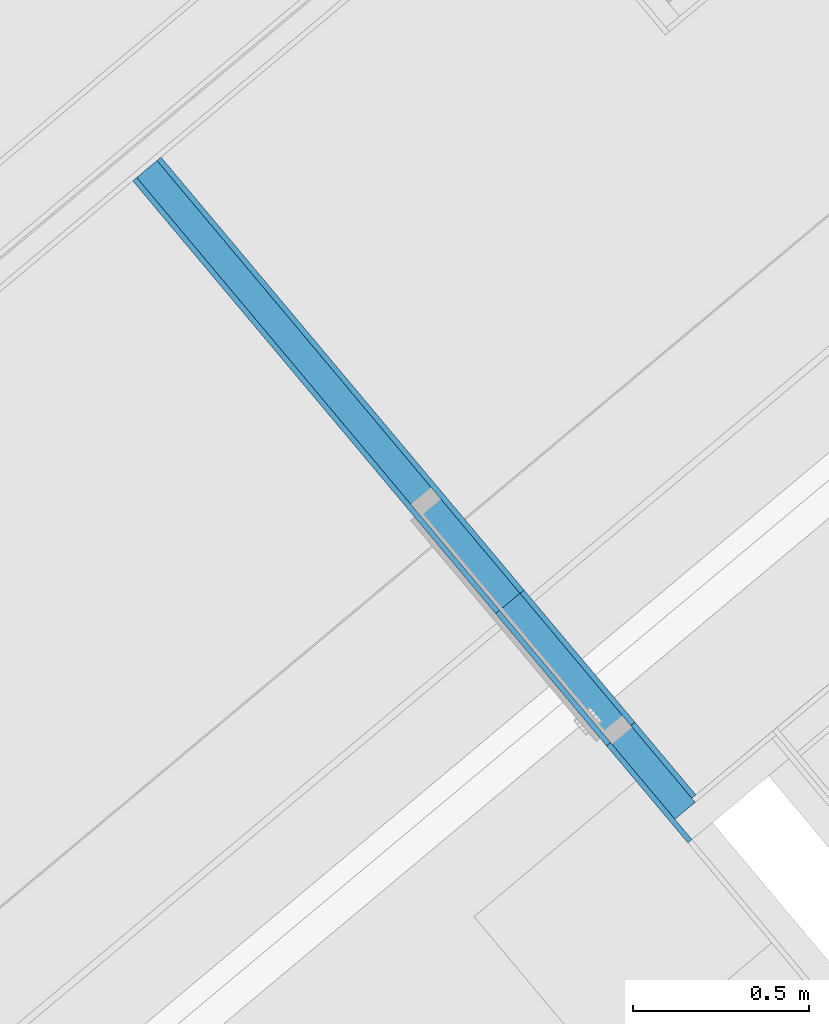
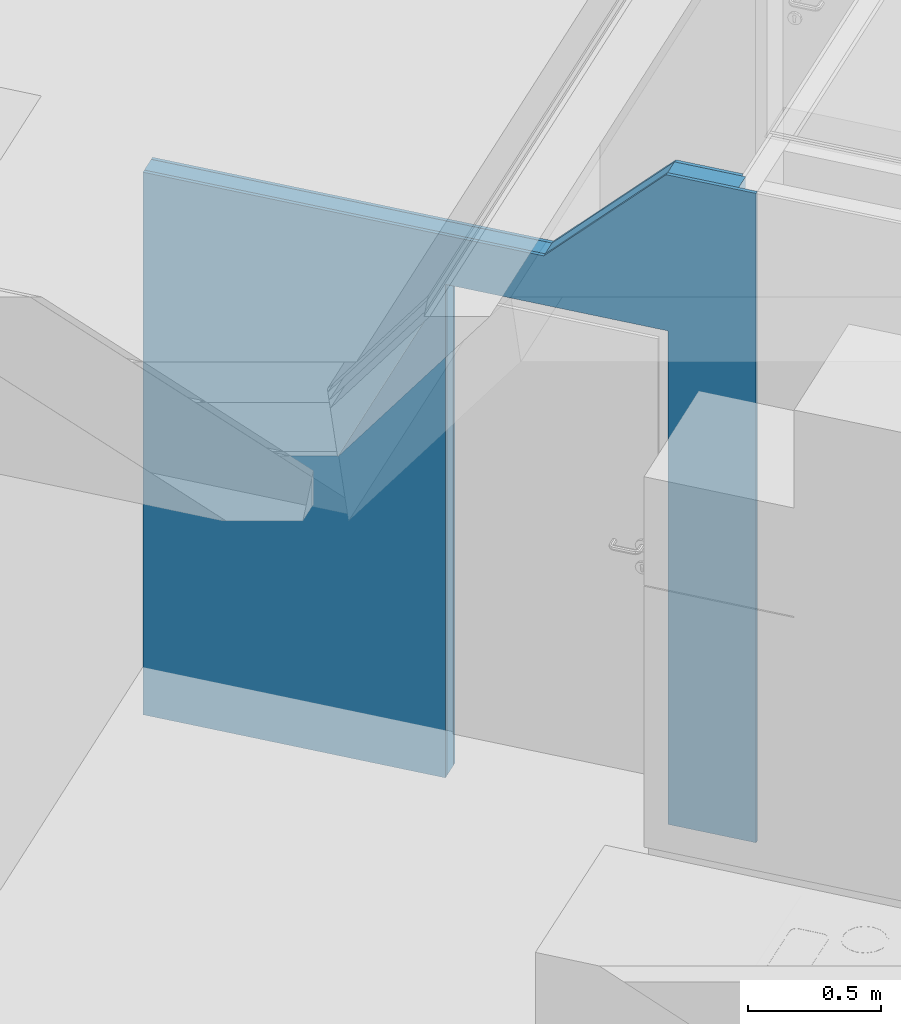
# One storey, part 9 of 50: 3 building element parts, 1 opening, 1 element without a shape of its own.
"""IFC4 building model written with IfcOpenShell, lengths in metres."""

import ifcopenshell
import ifcopenshell.guid

model = None  # the IFC model being written
_history = None  # IfcOwnerHistory: only IFC2X3 demands one
_inside = {}  # id of a spatial element -> (the spatial element, [elements in it])
_under = {}  # id of a project, library or spatial element -> (it, [spatial elements below it])
_declared = {}  # id of a project -> (the project, [libraries it declares])
_typed = {}  # id of a type object -> (the type object, [elements of that type])
_made_of = {}  # id of a material, layer set ... -> (it, [elements and type objects made of it])


def new_model(schema):
    """Start an empty IFC model of exactly this schema.

    Asked for "IFC4X3", IfcOpenShell would pick the latest addendum, in which some entities
    have other attributes; the version numbers below select the first issue.
    IFC2X3 requires an IfcOwnerHistory on every rooted entity: one is made here for all.
    """
    global model, _history
    if schema == "IFC4X3":
        model = ifcopenshell.file(schema_version=(4, 3, 0, 0))
    else:
        model = ifcopenshell.file(schema=schema)
    _inside.clear()
    _under.clear()
    _declared.clear()
    _typed.clear()
    _made_of.clear()
    _history = None
    if model.schema == "IFC2X3":
        org = make("IfcOrganization", Name="unknown")
        user = make(
            "IfcPersonAndOrganization",
            ThePerson=make("IfcPerson", FamilyName="unknown"),
            TheOrganization=org,
        )
        app = make(
            "IfcApplication",
            ApplicationDeveloper=org,
            Version="unknown",
            ApplicationFullName="unknown",
            ApplicationIdentifier="unknown",
        )
        _history = make(
            "IfcOwnerHistory",
            OwningUser=user,
            OwningApplication=app,
            ChangeAction="ADDED",
            CreationDate=0,
        )
    return model


def make(cls, **values):
    """One entity of the class cls with the attributes given. An attribute that is None is left unset."""
    return model.create_entity(
        cls, **{name: value for name, value in values.items() if value is not None}
    )


def entity(cls, *values):
    """Any entity or typed value of the class cls, its attributes in the order of the schema. None: left unset."""
    e = model.create_entity(cls)
    for i, value in enumerate(values):
        if value is not None:
            e[i] = value
    return e


def rooted(cls, **values):
    """An entity with a GlobalId (a new one), such as an element, a storey or a relation."""
    return make(cls, GlobalId=ifcopenshell.guid.new(), OwnerHistory=_history, **values)


def si_unit(unit_type, name, prefix=None):
    """IfcSIUnit, for example si_unit("LENGTHUNIT", "METRE", prefix="MILLI")."""
    return make("IfcSIUnit", UnitType=unit_type, Prefix=prefix, Name=name)


def converted_unit(unit_type, name, factor, base, dimensions=None, offset=None):
    """IfcConversionBasedUnit, such as the inch: factor (a typed value) times the base unit."""
    return make(
        "IfcConversionBasedUnit"
        if offset is None
        else "IfcConversionBasedUnitWithOffset",
        ConversionOffset=offset,
        Dimensions=None
        if dimensions is None
        else entity("IfcDimensionalExponents", *dimensions),
        UnitType=unit_type,
        Name=name,
        ConversionFactor=make(
            "IfcMeasureWithUnit", ValueComponent=factor, UnitComponent=base
        ),
    )


def derived_unit(unit_type, elements):
    """IfcDerivedUnit: a product of units, each with its exponent."""
    return make(
        "IfcDerivedUnit",
        Elements=[
            make("IfcDerivedUnitElement", Unit=unit, Exponent=power)
            for unit, power in elements
        ],
        UnitType=unit_type,
    )


def assignment(units):
    """IfcUnitAssignment: the units of a project."""
    return None if units is None else make("IfcUnitAssignment", Units=units)


def point(xyz):
    """IfcCartesianPoint."""
    return None if xyz is None else make("IfcCartesianPoint", Coordinates=xyz)


def direction(xyz):
    """IfcDirection."""
    return None if xyz is None else make("IfcDirection", DirectionRatios=xyz)


def frame(location, z_axis=None, x_axis=None):
    """IfcAxis2Placement3D, a coordinate frame: its origin and axes. An axis left out is left unset."""
    return make(
        "IfcAxis2Placement3D",
        Location=point(location),
        Axis=direction(z_axis),
        RefDirection=direction(x_axis),
    )


def origin_with_axes():
    """The frame at (0, 0, 0) with the z axis (0, 0, 1) and the x axis (1, 0, 0) written out."""
    return frame((0.0, 0.0, 0.0), z_axis=(0.0, 0.0, 1.0), x_axis=(1.0, 0.0, 0.0))


def place(relative_to, where):
    """IfcLocalPlacement: puts the frame where relative to a parent placement (None: the world)."""
    return make(
        "IfcLocalPlacement", PlacementRelTo=relative_to, RelativePlacement=where
    )


def context(
    kind, dimensions, precision=None, world=None, true_north=None, identifier=None
):
    """IfcGeometricRepresentationContext, for example the 3D "Model" context."""
    return make(
        "IfcGeometricRepresentationContext",
        ContextIdentifier=identifier,
        ContextType=kind,
        CoordinateSpaceDimension=dimensions,
        Precision=precision,
        WorldCoordinateSystem=world,
        TrueNorth=true_north,
    )


def subcontext(parent, identifier, kind, view, scale=None):
    """IfcGeometricRepresentationSubContext, for example "Body" below "Model"."""
    return make(
        "IfcGeometricRepresentationSubContext",
        ContextIdentifier=identifier,
        ContextType=kind,
        ParentContext=parent,
        TargetScale=scale,
        TargetView=view,
    )


def project(units=None, contexts=None):
    """IfcProject with its units and contexts."""
    return rooted(
        "IfcProject",
        Name="project",
        RepresentationContexts=contexts,
        UnitsInContext=assignment(units),
    )


def spatial(cls, under=None, at=None, **own):
    """A site, building, storey or space (cls), placed at a placement, below another one or the project."""
    s = rooted(cls, ObjectPlacement=at, **own)
    if under is not None:
        _under.setdefault(under.id(), (under, []))[1].append(s)
    return s


def point_list(points):
    """IfcCartesianPointList2D or 3D."""
    cls = (
        "IfcCartesianPointList2D" if len(points[0]) == 2 else "IfcCartesianPointList3D"
    )
    return make(cls, CoordList=points)


def polygons(points, faces, closed=None, point_numbers=None):
    """IfcPolygonalFaceSet: a face is its outer loop, then its inner loops; points numbered from 1."""
    made = []
    for loops in faces:
        if len(loops) == 1:
            made.append(make("IfcIndexedPolygonalFace", CoordIndex=loops[0]))
        else:
            made.append(
                make(
                    "IfcIndexedPolygonalFaceWithVoids",
                    CoordIndex=loops[0],
                    InnerCoordIndices=loops[1:],
                )
            )
    return make(
        "IfcPolygonalFaceSet",
        Coordinates=point_list(points),
        Closed=closed,
        Faces=made,
        PnIndex=point_numbers,
    )


def shape(context_of_items, identifier, shape_type, items):
    """IfcShapeRepresentation: the items that make up one representation, for example the "Body"."""
    return make(
        "IfcShapeRepresentation",
        ContextOfItems=context_of_items,
        RepresentationIdentifier=identifier,
        RepresentationType=shape_type,
        Items=items,
    )


def material(Name=None, Category=None):
    """IfcMaterial."""
    return make("IfcMaterial", Name=Name, Category=Category)


def made_of(thing, what):
    """Note that an element or type object is made of a material, layer set ...; save() writes the relation."""
    if what is not None:
        _made_of.setdefault(what.id(), (what, []))[1].append(thing)
    return thing


def type_object(cls, material=None, **own):
    """A type object (cls), such as IfcWallType, which elements share."""
    return made_of(rooted(cls, **own), material)


def element(
    cls,
    number,
    at=None,
    inside=None,
    cuts=None,
    type_object=None,
    material=None,
    context=None,
    identifier="Body",
    shape_type=None,
    held_by="IfcProductDefinitionShape",
    body=None,
    shapes=None,
    **own,
):
    """One element of the class cls, such as IfcWall. Its Tag is "e" and its number.

    at: its placement. inside: the storey or other place that contains it. cuts: it is an
    opening in that element (IfcRelVoidsElement). A single representation is given by context,
    identifier, shape_type and body (its items); several are given by shapes. held_by: the class
    of the entity that holds the representations. save() writes the other relations.
    """
    e = rooted(cls, Tag="e%d" % number, ObjectPlacement=at, **own)
    if body is not None:
        shapes = [shape(context, identifier, shape_type, body)]
    if shapes is not None:
        e.Representation = make(held_by, Representations=shapes)
    if inside is not None:
        _inside.setdefault(inside.id(), (inside, []))[1].append(e)
    if cuts is not None:
        rooted(
            "IfcRelVoidsElement", RelatingBuildingElement=cuts, RelatedOpeningElement=e
        )
    if type_object is not None:
        _typed.setdefault(type_object.id(), (type_object, []))[1].append(e)
    return made_of(e, material)


def aggregate(whole, parts):
    """IfcRelAggregates: a whole, such as a stair, and the parts it consists of."""
    return rooted("IfcRelAggregates", RelatingObject=whole, RelatedObjects=parts)


def save(model, path):
    """Write the relations noted so far, then the file.

    IfcRelAggregates (storeys below a building ...), IfcRelContainedInSpatialStructure (elements
    in a storey), IfcRelDefinesByType, IfcRelAssociatesMaterial and IfcRelDeclares: one each for
    every whole, place, type object, material and project.
    """
    for whole, parts in _under.values():
        aggregate(whole, parts)
    for where, things in _inside.values():
        rooted(
            "IfcRelContainedInSpatialStructure",
            RelatedElements=things,
            RelatingStructure=where,
        )
    for kind, things in _typed.values():
        rooted("IfcRelDefinesByType", RelatedObjects=things, RelatingType=kind)
    for what, things in _made_of.values():
        rooted("IfcRelAssociatesMaterial", RelatedObjects=things, RelatingMaterial=what)
    for by, libraries in _declared.values():
        rooted("IfcRelDeclares", RelatingContext=by, RelatedDefinitions=libraries)
    model.write(path)


model = new_model("IFC4")

# Units and contexts
model_context = context("Model", 3, precision=1e-05, world=origin_with_axes(), true_north=direction((0.0, 1.0)))
body_context = subcontext(model_context, "Body", "Model", "MODEL_VIEW")
ifc_project = project(units=[si_unit("LENGTHUNIT", "METRE"), si_unit("AREAUNIT", "SQUARE_METRE"), si_unit("VOLUMEUNIT", "CUBIC_METRE"), converted_unit("PLANEANGLEUNIT", "DEGREE", entity("IfcPlaneAngleMeasure", 0.0174532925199), si_unit("PLANEANGLEUNIT", "RADIAN"), dimensions=[0, 0, 0, 0, 0, 0, 0]), converted_unit("TIMEUNIT", "Year", entity("IfcTimeMeasure", 31556926.0), si_unit("TIMEUNIT", "SECOND"), dimensions=[0, 0, 1, 0, 0, 0, 0]), si_unit("MASSUNIT", "GRAM", prefix="KILO"), si_unit("THERMODYNAMICTEMPERATUREUNIT", "DEGREE_CELSIUS"), si_unit("LUMINOUSINTENSITYUNIT", "LUMEN"), si_unit("ENERGYUNIT", "JOULE", prefix="MEGA"), derived_unit("THERMALCONDUCTANCEUNIT", [(si_unit("POWERUNIT", "WATT"), 1), (si_unit("LENGTHUNIT", "METRE"), -1), (si_unit("THERMODYNAMICTEMPERATUREUNIT", "KELVIN"), -1)]), derived_unit("SPECIFICHEATCAPACITYUNIT", [(si_unit("ENERGYUNIT", "JOULE"), 1), (si_unit("MASSUNIT", "GRAM", prefix="KILO"), -1), (si_unit("THERMODYNAMICTEMPERATUREUNIT", "KELVIN"), -1)]), derived_unit("MASSDENSITYUNIT", [(si_unit("MASSUNIT", "GRAM", prefix="KILO"), 1), (si_unit("VOLUMEUNIT", "CUBIC_METRE"), -1)])], contexts=[model_context])

# Site, building, storey
site_placement = place(None, frame((-0.00153261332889, -0.00661245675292, 0.0), z_axis=(0.0, 0.0, 1.0), x_axis=(1.0, 0.0, 0.0)))
site = spatial("IfcSite", under=ifc_project, at=site_placement, Name="Gelände", CompositionType="ELEMENT")
building_placement = place(site_placement, origin_with_axes())
building = spatial("IfcBuilding", under=site, at=building_placement, Name="Gebäude", CompositionType="ELEMENT")
storey_placement = place(building_placement, frame((0.0, 0.0, 8.66), z_axis=(0.0, 0.0, 1.0), x_axis=(1.0, 0.0, 0.0)))
storey = spatial("IfcBuildingStorey", under=building, at=storey_placement, Name="DG2", CompositionType="ELEMENT", Elevation=8.66)

# Wall, opening, building element parts
wall_type = type_object("IfcWallType", Name="IW LB 01 Leichtbautrennwand einfach 10,5 cm 105", PredefinedType="NOTDEFINED")
wall_placement = place(storey_placement, frame((0.98356534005, 19.6433934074, 0.0), z_axis=(0.0, 0.0, 1.0), x_axis=(-0.642599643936, 0.766202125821, 0.0)))
wall = element("IfcWall", 1, at=wall_placement, inside=storey, type_object=wall_type, Name="Wand-013", PredefinedType="NOTDEFINED")
opening_placement = place(wall_placement, frame((0.797527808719, 0.0, 0.22), z_axis=(0.0, 0.0, 1.0), x_axis=(1.0, 0.0, 0.0)))
element("IfcOpeningElement", 2, at=opening_placement, cuts=wall, Name="Tür-021", context=body_context, identifier="Reference", shape_type="Tessellation", body=[
    polygons([(-0.445, -1.35817263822, 2.045), (-0.445, -1.35817263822, -0.22), (0.445, -1.35817263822, -0.22), (0.445, -1.35817263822, 2.045), (-0.445, 1.25317263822, 2.045), (-0.445, 1.25317263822, -0.22), (0.445, 1.25317263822, -0.22), (0.445, 1.25317263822, 2.045)], [[[1, 2, 3, 4]], [[5, 6, 2, 1]], [[6, 7, 3, 2]], [[7, 8, 4, 3]], [[8, 5, 1, 4]], [[7, 6, 5, 8]]], closed=True),
])
ifc_material_1 = material(Name="Gipskarton")
building_element_part_1_placement = place(wall_placement, origin_with_axes())
building_element_part_1 = element("IfcBuildingElementPart", 3, at=building_element_part_1_placement, material=ifc_material_1, Name="Gipskarton", PredefinedType="NOTDEFINED", context=body_context, shape_type="Tessellation", body=[
    polygons([(1.24252780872, -0.0150000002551, 2.265), (1.24252780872, -0.0150000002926, 0.22), (1.24252779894, -0.015, 0.0), (2.45317669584, -0.015, 0.0), (2.45317669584, -0.0150000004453, 2.49), (0.849317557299, -0.0150000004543, 2.49), (0.359316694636, -0.0150000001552, 2.98), (-6.3169709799e-05, -0.0150000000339, 2.98), (-6.31697096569e-05, -0.015, 0.0), (0.352527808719, -0.015, 0.0), (0.352527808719, -0.0150000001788, 0.22), (0.352527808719, -0.0150000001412, 2.265), (1.24252780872, -9.23724208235e-09, 2.265), (1.24252780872, 2.35633574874e-08, 0.22), (1.2425277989, 2.35633574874e-08, 0.0), (2.45320484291, -3.71182196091e-10, 0.0), (2.45320484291, -8.22588219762e-10, 2.49), (0.849345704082, -9.15925113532e-09, 2.49), (0.359344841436, -1.81039183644e-10, 2.98), (0.0, 0.0, 2.98), (0.0, 0.0, 0.0), (0.352527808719, -8.75775718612e-09, 0.0), (0.352527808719, -8.75775896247e-09, 0.22), (0.352527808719, -9.00279495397e-09, 2.265)], [[[1, 2, 3, 4, 5, 6, 7, 8, 9, 10, 11, 12]], [[2, 1, 13, 14]], [[2, 14, 15, 3]], [[4, 3, 15, 16]], [[5, 4, 16, 17]], [[6, 5, 17, 18]], [[18, 19, 7, 6]], [[20, 8, 7, 19]], [[8, 20, 21, 9]], [[21, 22, 10, 9]], [[23, 11, 10, 22]], [[12, 11, 23, 24]], [[1, 12, 24, 13]], [[24, 23, 22, 21, 20, 19, 18, 17, 16, 15, 14, 13]]], closed=True),
])
ifc_material_2 = material(Name="Mineralwolle weich")
building_element_part_2_placement = place(wall_placement, origin_with_axes())
building_element_part_2 = element("IfcBuildingElementPart", 4, at=building_element_part_2_placement, material=ifc_material_2, Name="Mineralwolle weich", PredefinedType="NOTDEFINED", context=body_context, shape_type="Tessellation", body=[
    polygons([(1.24252780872, -0.0900000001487, 2.265), (1.24252780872, -0.0900000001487, 0.22), (1.24252779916, -0.09, 0.0), (2.45303596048, -0.09, 0.0), (2.45303596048, -0.0900000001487, 2.49), (0.849176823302, -0.09, 2.49), (0.359175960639, -0.0900000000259, 2.98), (0.0746216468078, -0.0900000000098, 2.98), (0.0746216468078, -0.09, 0.0), (0.352527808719, -0.09, 0.0), (0.352527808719, -0.0900000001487, 0.22), (0.352527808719, -0.0900000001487, 2.265), (1.24252780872, -0.0150000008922, 2.265), (1.24252780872, -0.0150000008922, 0.22), (1.24252779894, -0.015, 0.0), (2.45317669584, -0.015, 0.0), (2.45317669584, -0.0150000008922, 2.49), (0.849317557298, -0.0150000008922, 2.49), (0.359316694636, -0.0150000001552, 2.98), (0.0749374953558, -0.0150000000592, 2.98), (0.0749374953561, -0.015, 0.0), (0.352527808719, -0.015, 0.0), (0.352527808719, -0.0150000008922, 0.22), (0.352527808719, -0.0150000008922, 2.265)], [[[1, 2, 3, 4, 5, 6, 7, 8, 9, 10, 11, 12]], [[2, 1, 13, 14]], [[2, 14, 15, 3]], [[4, 3, 15, 16]], [[5, 4, 16, 17]], [[6, 5, 17, 18]], [[18, 19, 7, 6]], [[20, 8, 7, 19]], [[20, 21, 9, 8]], [[21, 22, 10, 9]], [[23, 11, 10, 22]], [[12, 11, 23, 24]], [[1, 12, 24, 13]], [[24, 23, 22, 21, 20, 19, 18, 17, 16, 15, 14, 13]]], closed=True),
])
building_element_part_3_placement = place(wall_placement, origin_with_axes())
building_element_part_3 = element("IfcBuildingElementPart", 5, at=building_element_part_3_placement, material=ifc_material_1, Name="Gipskarton", PredefinedType="NOTDEFINED", context=body_context, shape_type="Tessellation", body=[
    polygons([(1.24252780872, -0.105, 2.265), (1.24252780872, -0.105, 0.22), (1.2425277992, -0.105, 0.0), (2.4530078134, -0.105, 0.0), (2.4530078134, -0.105, 2.49), (0.849148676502, -0.105, 2.49), (0.359147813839, -0.105, 2.98), (0.0895586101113, -0.105, 2.98), (0.0895586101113, -0.105, 0.0), (0.352527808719, -0.105, 0.0), (0.352527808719, -0.105, 0.22), (0.352527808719, -0.105, 2.265), (1.24252780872, -0.0900000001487, 2.265), (1.24252780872, -0.0900000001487, 0.22), (1.24252779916, -0.09, 0.0), (2.45303596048, -0.09, 0.0), (2.45303596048, -0.0900000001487, 2.49), (0.849176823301, -0.0900000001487, 2.49), (0.359175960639, -0.0900000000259, 2.98), (0.0896217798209, -0.0900000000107, 2.98), (0.089621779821, -0.09, 0.0), (0.352527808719, -0.09, 0.0), (0.352527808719, -0.0900000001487, 0.22), (0.352527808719, -0.0900000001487, 2.265)], [[[1, 2, 3, 4, 5, 6, 7, 8, 9, 10, 11, 12]], [[2, 1, 13, 14]], [[2, 14, 15, 3]], [[4, 3, 15, 16]], [[5, 4, 16, 17]], [[6, 5, 17, 18]], [[18, 19, 7, 6]], [[20, 8, 7, 19]], [[20, 21, 9, 8]], [[21, 22, 10, 9]], [[23, 11, 10, 22]], [[12, 11, 23, 24]], [[1, 12, 24, 13]], [[24, 23, 22, 21, 20, 19, 18, 17, 16, 15, 14, 13]]], closed=True),
])
aggregate(wall, [building_element_part_1, building_element_part_2, building_element_part_3])

save(model, "model.ifc")
